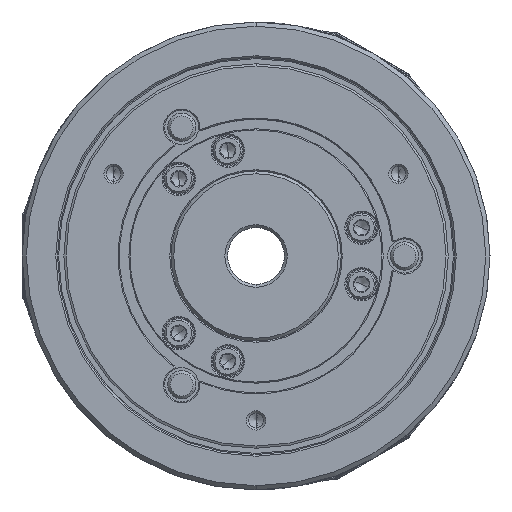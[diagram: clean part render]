
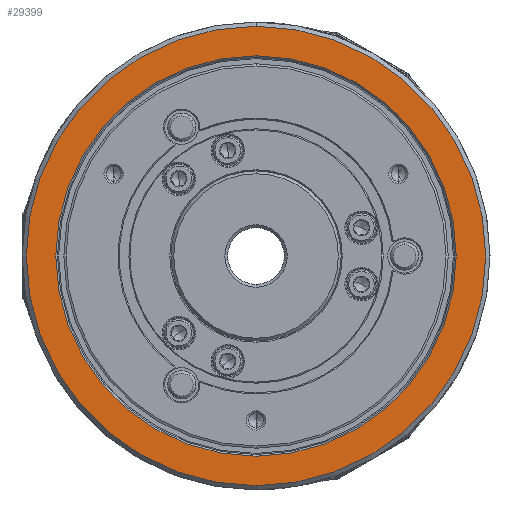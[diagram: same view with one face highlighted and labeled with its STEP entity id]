
A CAD part, left-side view. The second image highlights one B-rep face of the part: STEP entity #29399.
In plain terms, the highlighted planar face has unit normal (-1, 0, 0).
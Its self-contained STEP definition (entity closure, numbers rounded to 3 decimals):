
#1642 = CARTESIAN_POINT ( 'NONE',  ( -81., 0., 81. ) ) ;
#2766 = EDGE_CURVE ( 'NONE', #40207, #72013, #52538, .T. ) ;
#3053 = CARTESIAN_POINT ( 'NONE',  ( -81., 0., 70.6 ) ) ;
#6040 = DIRECTION ( 'NONE',  ( -1., 0., 0. ) ) ;
#10255 = EDGE_CURVE ( 'NONE', #27413, #68958, #63813, .T. ) ;
#10580 = DIRECTION ( 'NONE',  ( 1., 0., 0. ) ) ;
#10742 = DIRECTION ( 'NONE',  ( 1., 0., 0. ) ) ;
#11151 = CARTESIAN_POINT ( 'NONE',  ( -81., 70.6, 0. ) ) ;
#12386 = CARTESIAN_POINT ( 'NONE',  ( -81., 0., 0. ) ) ;
#14159 = DIRECTION ( 'NONE',  ( 0., 0., -1. ) ) ;
#17163 = AXIS2_PLACEMENT_3D ( 'NONE', #69985, #10742, #51244 ) ;
#17523 = DIRECTION ( 'NONE',  ( 1., 0., 0. ) ) ;
#19221 = FACE_BOUND ( 'NONE', #72144, .T. ) ;
#25177 = CIRCLE ( 'NONE', #63296, 70.6 ) ;
#27183 = PLANE ( 'NONE',  #69254 ) ;
#27413 = VERTEX_POINT ( 'NONE', #49158 ) ;
#28630 = CARTESIAN_POINT ( 'NONE',  ( -81., 0., 0. ) ) ;
#29399 = ADVANCED_FACE ( 'NONE', ( #19221, #38845 ), #27183, .T. ) ;
#32485 = CARTESIAN_POINT ( 'NONE',  ( -81., 0., -70.6 ) ) ;
#35948 = EDGE_CURVE ( 'NONE', #72013, #40207, #25177, .T. ) ;
#38392 = DIRECTION ( 'NONE',  ( 0., 0., -1. ) ) ;
#38845 = FACE_OUTER_BOUND ( 'NONE', #48346, .T. ) ;
#39385 = AXIS2_PLACEMENT_3D ( 'NONE', #12386, #17523, #38392 ) ;
#40207 = VERTEX_POINT ( 'NONE', #32485 ) ;
#40887 = ORIENTED_EDGE ( 'NONE', *, *, #2766, .T. ) ;
#42994 = CARTESIAN_POINT ( 'NONE',  ( -81., 0., 0. ) ) ;
#44409 = DIRECTION ( 'NONE',  ( 0., 0., 1. ) ) ;
#44709 = AXIS2_PLACEMENT_3D ( 'NONE', #28630, #47413, #14159 ) ;
#47413 = DIRECTION ( 'NONE',  ( 1., 0., 0. ) ) ;
#48346 = EDGE_LOOP ( 'NONE', ( #69566, #80059 ) ) ;
#49158 = CARTESIAN_POINT ( 'NONE',  ( -81., 0., -81. ) ) ;
#50229 = DIRECTION ( 'NONE',  ( 0., 0., -1. ) ) ;
#51244 = DIRECTION ( 'NONE',  ( 0., 0., -1. ) ) ;
#52538 = CIRCLE ( 'NONE', #17163, 70.6 ) ;
#63296 = AXIS2_PLACEMENT_3D ( 'NONE', #42994, #10580, #50229 ) ;
#63813 = CIRCLE ( 'NONE', #44709, 81. ) ;
#64964 = EDGE_CURVE ( 'NONE', #68958, #27413, #76106, .T. ) ;
#68958 = VERTEX_POINT ( 'NONE', #1642 ) ;
#69254 = AXIS2_PLACEMENT_3D ( 'NONE', #11151, #6040, #44409 ) ;
#69566 = ORIENTED_EDGE ( 'NONE', *, *, #10255, .F. ) ;
#69985 = CARTESIAN_POINT ( 'NONE',  ( -81., 0., 0. ) ) ;
#72013 = VERTEX_POINT ( 'NONE', #3053 ) ;
#72144 = EDGE_LOOP ( 'NONE', ( #76231, #40887 ) ) ;
#76106 = CIRCLE ( 'NONE', #39385, 81. ) ;
#76231 = ORIENTED_EDGE ( 'NONE', *, *, #35948, .T. ) ;
#80059 = ORIENTED_EDGE ( 'NONE', *, *, #64964, .F. ) ;
